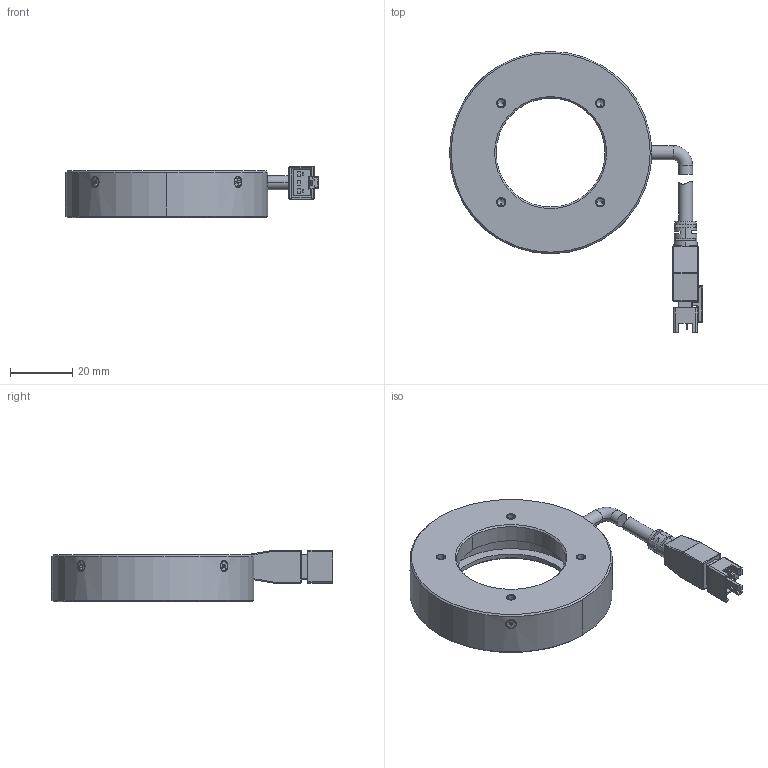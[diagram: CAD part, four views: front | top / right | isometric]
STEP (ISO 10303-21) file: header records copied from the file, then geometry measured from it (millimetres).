
FILE_DESCRIPTION((''),'2;1');
FILE_NAME('65-00','2024-01-30T15:14:22',('qiaoxuan5'),(''),'CREO PARAMETRIC BY PTC INC, 2020044','CREO PARAMETRIC BY PTC INC, 2020044','');
FILE_SCHEMA(('CONFIG_CONTROL_DESIGN'));
Length unit declared in the file: millimetre
Products named in the file (1): 65-00
Bounding box: 81.32 x 90.3 x 16.5 mm (x, y, z)
Volume: 31035.5 mm3; surface area: 16988.6 mm2
Topology: 2 solids, 18 shells, 512 faces, 1296 edges, 803 vertices
Faces by surface type: plane 271, cylinder 161, cone 53, torus 10, sphere 8, bspline 8, extrusion 1
Entity records: 16819 total; most frequent: CARTESIAN_POINT 4530, DIRECTION 2572, ORIENTED_EDGE 2496, EDGE_CURVE 1272, AXIS2_PLACEMENT_3D 902, VERTEX_POINT 803, VECTOR 768, LINE 767
